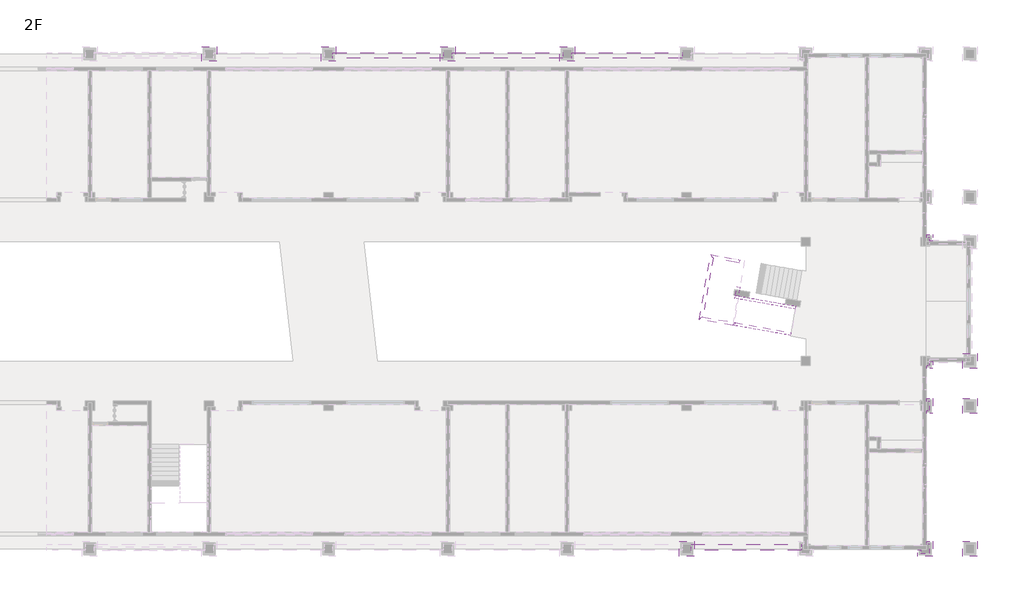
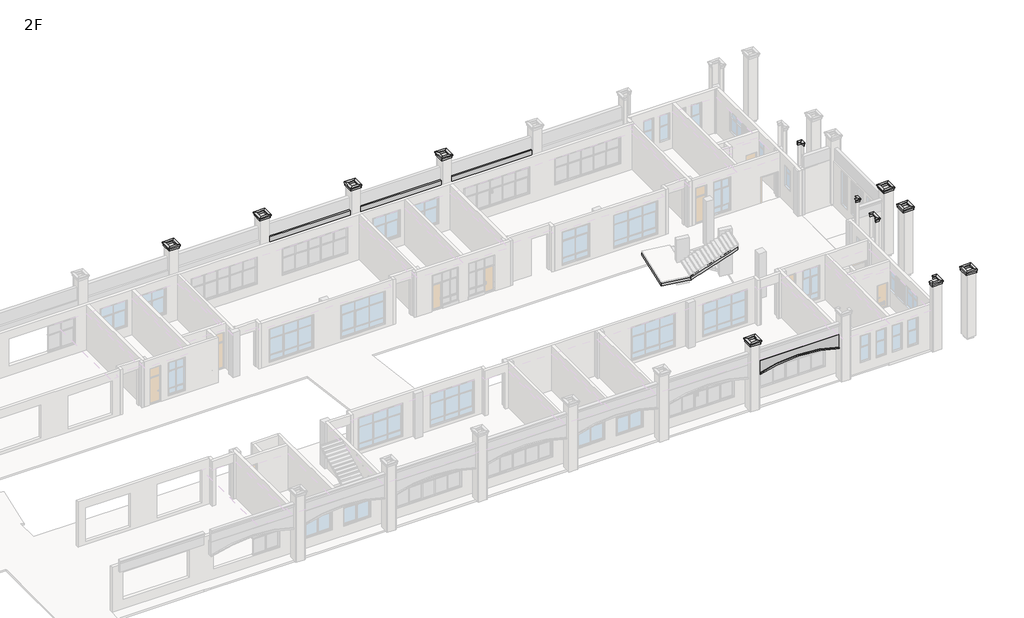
# One storey, part 15 of 16: 16 proxies, 6 members.
"""IFC4 building model written with IfcOpenShell, lengths in millimetres."""

from ifc_helpers import new_model, si_unit, frame, origin, place, context, project, spatial, polyline, outline, extrude, faceted_brep, transform, mapped, element, save
from components import generic_models_fbc45798, generic_models_00445dfb

model = new_model("IFC4")

# Units and contexts
model_context = context("Model", 3, world=origin())
ifc_project = project(units=[si_unit("LENGTHUNIT", "METRE", prefix="MILLI")], contexts=[model_context])

# Site, building, storey
site = spatial("IfcSite", under=ifc_project)
building = spatial("IfcBuilding", under=site)
storey = spatial("IfcBuildingStorey", under=building, Name="2F", Elevation=4200.0)

# Proxies
placement = place(None, origin())
generic_models_shape = generic_models_fbc45798(model_context)
element("IfcBuildingElementProxy", 1, Name="走廊板 : h=300mm", ObjectType="走廊板 : h=300mm", at=placement, inside=storey, context=model_context, shape_type="MappedRepresentation", body=[
    mapped(generic_models_shape, transform((67300.0, 150.0, 8400.0), x_axis=(1.0, 0.0, 0.0), y_axis=(0.0, 1.0, 0.0), z_axis=(0.0, 0.0, 1.0))),
])
generic_models_2_shape = generic_models_00445dfb(model_context)
element("IfcBuildingElementProxy", 2, Name="走廊板 : h=300mm", ObjectType="走廊板 : h=300mm", at=placement, inside=storey, context=model_context, shape_type="MappedRepresentation", body=[
    mapped(generic_models_2_shape, transform((43300.0, 33050.0, 8400.0), x_axis=(1.0, 0.0, 0.0), y_axis=(0.0, 1.0, 0.0), z_axis=(0.0, 0.0, 1.0))),
])
element("IfcBuildingElementProxy", 3, Name="走廊板 : h=300mm", ObjectType="走廊板 : h=300mm", at=placement, inside=storey, context=model_context, shape_type="MappedRepresentation", body=[
    mapped(generic_models_2_shape, transform((51300.0, 33050.0, 8400.0), x_axis=(1.0, 0.0, 0.0), y_axis=(0.0, 1.0, 0.0), z_axis=(0.0, 0.0, 1.0))),
])
element("IfcBuildingElementProxy", 4, Name="走廊板 : h=300mm", ObjectType="走廊板 : h=300mm", at=placement, inside=storey, context=model_context, shape_type="MappedRepresentation", body=[
    mapped(generic_models_2_shape, transform((59300.0, 33050.0, 8400.0), x_axis=(1.0, 0.0, 0.0), y_axis=(0.0, 1.0, 0.0), z_axis=(0.0, 0.0, 1.0))),
])
element("IfcBuildingElementProxy", 5, Name="QS2", ObjectType="QS2", at=placement, inside=storey, context=model_context, shape_type="Brep", body=[
    faceted_brep([(34550.0, 32749.640208, 10300.0), (34600.0, 32799.640208, 10300.0), (34600.0, 32799.640208, 10550.0), (34700.0, 32899.640208, 10550.0), (34700.0, 32899.640208, 10600.0), (34500.0, 32699.640208, 10600.0), (34500.0, 32699.640208, 10500.0), (34550.0, 32749.640208, 10500.0), (34550.0, 33650.0, 10300.0), (34550.0, 33650.0, 10500.0), (34500.0, 33700.0, 10500.0), (34500.0, 33700.0, 10600.0), (34700.0, 33500.0, 10600.0), (34700.0, 33500.0, 10550.0), (34600.0, 33600.0, 10550.0), (34600.0, 33600.0, 10300.0)], [[[0, 1, 2, 3, 4, 5, 6, 7]], [[8, 9, 10, 11, 12, 13, 14, 15]], [[1, 0, 8, 15]], [[2, 1, 15, 14]], [[3, 2, 14, 13]], [[4, 3, 13, 12]], [[5, 4, 12, 11]], [[6, 5, 11, 10]], [[7, 6, 10, 9]], [[0, 7, 9, 8]]]),
    faceted_brep([(34550.0, 33650.0, 10300.0), (34600.0, 33600.0, 10300.0), (34600.0, 33600.0, 10550.0), (34700.0, 33500.0, 10550.0), (34700.0, 33500.0, 10600.0), (34500.0, 33700.0, 10600.0), (34500.0, 33700.0, 10500.0), (34550.0, 33650.0, 10500.0), (35450.0, 33650.0, 10300.0), (35450.0, 33650.0, 10500.0), (35500.0, 33700.0, 10500.0), (35500.0, 33700.0, 10600.0), (35300.0, 33500.0, 10600.0), (35300.0, 33500.0, 10550.0), (35400.0, 33600.0, 10550.0), (35400.0, 33600.0, 10300.0)], [[[0, 1, 2, 3, 4, 5, 6, 7]], [[8, 9, 10, 11, 12, 13, 14, 15]], [[1, 0, 8, 15]], [[2, 1, 15, 14]], [[3, 2, 14, 13]], [[4, 3, 13, 12]], [[5, 4, 12, 11]], [[6, 5, 11, 10]], [[7, 6, 10, 9]], [[0, 7, 9, 8]]]),
    faceted_brep([(35450.0, 33650.0, 10300.0), (35400.0, 33600.0, 10300.0), (35400.0, 33600.0, 10550.0), (35300.0, 33500.0, 10550.0), (35300.0, 33500.0, 10600.0), (35500.0, 33700.0, 10600.0), (35500.0, 33700.0, 10500.0), (35450.0, 33650.0, 10500.0), (35450.0, 32749.640208, 10300.0), (35450.0, 32749.640208, 10500.0), (35500.0, 32699.640208, 10500.0), (35500.0, 32699.640208, 10600.0), (35300.0, 32899.640208, 10600.0), (35300.0, 32899.640208, 10550.0), (35400.0, 32799.640208, 10550.0), (35400.0, 32799.640208, 10300.0)], [[[0, 1, 2, 3, 4, 5, 6, 7]], [[8, 9, 10, 11, 12, 13, 14, 15]], [[1, 0, 8, 15]], [[2, 1, 15, 14]], [[3, 2, 14, 13]], [[4, 3, 13, 12]], [[5, 4, 12, 11]], [[6, 5, 11, 10]], [[7, 6, 10, 9]], [[0, 7, 9, 8]]]),
    faceted_brep([(35450.0, 32749.640208, 10300.0), (35400.0, 32799.640208, 10300.0), (35400.0, 32799.640208, 10550.0), (35300.0, 32899.640208, 10550.0), (35300.0, 32899.640208, 10600.0), (35500.0, 32699.640208, 10600.0), (35500.0, 32699.640208, 10500.0), (35450.0, 32749.640208, 10500.0), (34550.0, 32749.640208, 10300.0), (34550.0, 32749.640208, 10500.0), (34500.0, 32699.640208, 10500.0), (34500.0, 32699.640208, 10600.0), (34700.0, 32899.640208, 10600.0), (34700.0, 32899.640208, 10550.0), (34600.0, 32799.640208, 10550.0), (34600.0, 32799.640208, 10300.0)], [[[0, 1, 2, 3, 4, 5, 6, 7]], [[8, 9, 10, 11, 12, 13, 14, 15]], [[1, 0, 8, 15]], [[2, 1, 15, 14]], [[3, 2, 14, 13]], [[4, 3, 13, 12]], [[5, 4, 12, 11]], [[6, 5, 11, 10]], [[7, 6, 10, 9]], [[0, 7, 9, 8]]]),
])
element("IfcBuildingElementProxy", 6, Name="QS2", ObjectType="QS2", at=placement, inside=storey, context=model_context, shape_type="Brep", body=[
    faceted_brep([(42550.0, 32749.640208, 10300.0), (42600.0, 32799.640208, 10300.0), (42600.0, 32799.640208, 10550.0), (42700.0, 32899.640208, 10550.0), (42700.0, 32899.640208, 10600.0), (42500.0, 32699.640208, 10600.0), (42500.0, 32699.640208, 10500.0), (42550.0, 32749.640208, 10500.0), (42550.0, 33650.0, 10300.0), (42550.0, 33650.0, 10500.0), (42500.0, 33700.0, 10500.0), (42500.0, 33700.0, 10600.0), (42700.0, 33500.0, 10600.0), (42700.0, 33500.0, 10550.0), (42600.0, 33600.0, 10550.0), (42600.0, 33600.0, 10300.0)], [[[0, 1, 2, 3, 4, 5, 6, 7]], [[8, 9, 10, 11, 12, 13, 14, 15]], [[1, 0, 8, 15]], [[2, 1, 15, 14]], [[3, 2, 14, 13]], [[4, 3, 13, 12]], [[5, 4, 12, 11]], [[6, 5, 11, 10]], [[7, 6, 10, 9]], [[0, 7, 9, 8]]]),
    faceted_brep([(42550.0, 33650.0, 10300.0), (42600.0, 33600.0, 10300.0), (42600.0, 33600.0, 10550.0), (42700.0, 33500.0, 10550.0), (42700.0, 33500.0, 10600.0), (42500.0, 33700.0, 10600.0), (42500.0, 33700.0, 10500.0), (42550.0, 33650.0, 10500.0), (43450.0, 33650.0, 10300.0), (43450.0, 33650.0, 10500.0), (43500.0, 33700.0, 10500.0), (43500.0, 33700.0, 10600.0), (43300.0, 33500.0, 10600.0), (43300.0, 33500.0, 10550.0), (43400.0, 33600.0, 10550.0), (43400.0, 33600.0, 10300.0)], [[[0, 1, 2, 3, 4, 5, 6, 7]], [[8, 9, 10, 11, 12, 13, 14, 15]], [[1, 0, 8, 15]], [[2, 1, 15, 14]], [[3, 2, 14, 13]], [[4, 3, 13, 12]], [[5, 4, 12, 11]], [[6, 5, 11, 10]], [[7, 6, 10, 9]], [[0, 7, 9, 8]]]),
    faceted_brep([(43450.0, 33650.0, 10300.0), (43400.0, 33600.0, 10300.0), (43400.0, 33600.0, 10550.0), (43300.0, 33500.0, 10550.0), (43300.0, 33500.0, 10600.0), (43500.0, 33700.0, 10600.0), (43500.0, 33700.0, 10500.0), (43450.0, 33650.0, 10500.0), (43450.0, 32749.640208, 10300.0), (43450.0, 32749.640208, 10500.0), (43500.0, 32699.640208, 10500.0), (43500.0, 32699.640208, 10600.0), (43300.0, 32899.640208, 10600.0), (43300.0, 32899.640208, 10550.0), (43400.0, 32799.640208, 10550.0), (43400.0, 32799.640208, 10300.0)], [[[0, 1, 2, 3, 4, 5, 6, 7]], [[8, 9, 10, 11, 12, 13, 14, 15]], [[1, 0, 8, 15]], [[2, 1, 15, 14]], [[3, 2, 14, 13]], [[4, 3, 13, 12]], [[5, 4, 12, 11]], [[6, 5, 11, 10]], [[7, 6, 10, 9]], [[0, 7, 9, 8]]]),
    faceted_brep([(43450.0, 32749.640208, 10300.0), (43400.0, 32799.640208, 10300.0), (43400.0, 32799.640208, 10550.0), (43300.0, 32899.640208, 10550.0), (43300.0, 32899.640208, 10600.0), (43500.0, 32699.640208, 10600.0), (43500.0, 32699.640208, 10500.0), (43450.0, 32749.640208, 10500.0), (42550.0, 32749.640208, 10300.0), (42550.0, 32749.640208, 10500.0), (42500.0, 32699.640208, 10500.0), (42500.0, 32699.640208, 10600.0), (42700.0, 32899.640208, 10600.0), (42700.0, 32899.640208, 10550.0), (42600.0, 32799.640208, 10550.0), (42600.0, 32799.640208, 10300.0)], [[[0, 1, 2, 3, 4, 5, 6, 7]], [[8, 9, 10, 11, 12, 13, 14, 15]], [[1, 0, 8, 15]], [[2, 1, 15, 14]], [[3, 2, 14, 13]], [[4, 3, 13, 12]], [[5, 4, 12, 11]], [[6, 5, 11, 10]], [[7, 6, 10, 9]], [[0, 7, 9, 8]]]),
])
element("IfcBuildingElementProxy", 7, Name="QS2", ObjectType="QS2", at=placement, inside=storey, context=model_context, shape_type="Brep", body=[
    faceted_brep([(50550.0, 32749.640208, 10300.0), (50600.0, 32799.640208, 10300.0), (50600.0, 32799.640208, 10550.0), (50700.0, 32899.640208, 10550.0), (50700.0, 32899.640208, 10600.0), (50500.0, 32699.640208, 10600.0), (50500.0, 32699.640208, 10500.0), (50550.0, 32749.640208, 10500.0), (50550.0, 33650.0, 10300.0), (50550.0, 33650.0, 10500.0), (50500.0, 33700.0, 10500.0), (50500.0, 33700.0, 10600.0), (50700.0, 33500.0, 10600.0), (50700.0, 33500.0, 10550.0), (50600.0, 33600.0, 10550.0), (50600.0, 33600.0, 10300.0)], [[[0, 1, 2, 3, 4, 5, 6, 7]], [[8, 9, 10, 11, 12, 13, 14, 15]], [[1, 0, 8, 15]], [[2, 1, 15, 14]], [[3, 2, 14, 13]], [[4, 3, 13, 12]], [[5, 4, 12, 11]], [[6, 5, 11, 10]], [[7, 6, 10, 9]], [[0, 7, 9, 8]]]),
    faceted_brep([(50550.0, 33650.0, 10300.0), (50600.0, 33600.0, 10300.0), (50600.0, 33600.0, 10550.0), (50700.0, 33500.0, 10550.0), (50700.0, 33500.0, 10600.0), (50500.0, 33700.0, 10600.0), (50500.0, 33700.0, 10500.0), (50550.0, 33650.0, 10500.0), (51450.0, 33650.0, 10300.0), (51450.0, 33650.0, 10500.0), (51500.0, 33700.0, 10500.0), (51500.0, 33700.0, 10600.0), (51300.0, 33500.0, 10600.0), (51300.0, 33500.0, 10550.0), (51400.0, 33600.0, 10550.0), (51400.0, 33600.0, 10300.0)], [[[0, 1, 2, 3, 4, 5, 6, 7]], [[8, 9, 10, 11, 12, 13, 14, 15]], [[1, 0, 8, 15]], [[2, 1, 15, 14]], [[3, 2, 14, 13]], [[4, 3, 13, 12]], [[5, 4, 12, 11]], [[6, 5, 11, 10]], [[7, 6, 10, 9]], [[0, 7, 9, 8]]]),
    faceted_brep([(51450.0, 33650.0, 10300.0), (51400.0, 33600.0, 10300.0), (51400.0, 33600.0, 10550.0), (51300.0, 33500.0, 10550.0), (51300.0, 33500.0, 10600.0), (51500.0, 33700.0, 10600.0), (51500.0, 33700.0, 10500.0), (51450.0, 33650.0, 10500.0), (51450.0, 32749.640208, 10300.0), (51450.0, 32749.640208, 10500.0), (51500.0, 32699.640208, 10500.0), (51500.0, 32699.640208, 10600.0), (51300.0, 32899.640208, 10600.0), (51300.0, 32899.640208, 10550.0), (51400.0, 32799.640208, 10550.0), (51400.0, 32799.640208, 10300.0)], [[[0, 1, 2, 3, 4, 5, 6, 7]], [[8, 9, 10, 11, 12, 13, 14, 15]], [[1, 0, 8, 15]], [[2, 1, 15, 14]], [[3, 2, 14, 13]], [[4, 3, 13, 12]], [[5, 4, 12, 11]], [[6, 5, 11, 10]], [[7, 6, 10, 9]], [[0, 7, 9, 8]]]),
    faceted_brep([(51450.0, 32749.640208, 10300.0), (51400.0, 32799.640208, 10300.0), (51400.0, 32799.640208, 10550.0), (51300.0, 32899.640208, 10550.0), (51300.0, 32899.640208, 10600.0), (51500.0, 32699.640208, 10600.0), (51500.0, 32699.640208, 10500.0), (51450.0, 32749.640208, 10500.0), (50550.0, 32749.640208, 10300.0), (50550.0, 32749.640208, 10500.0), (50500.0, 32699.640208, 10500.0), (50500.0, 32699.640208, 10600.0), (50700.0, 32899.640208, 10600.0), (50700.0, 32899.640208, 10550.0), (50600.0, 32799.640208, 10550.0), (50600.0, 32799.640208, 10300.0)], [[[0, 1, 2, 3, 4, 5, 6, 7]], [[8, 9, 10, 11, 12, 13, 14, 15]], [[1, 0, 8, 15]], [[2, 1, 15, 14]], [[3, 2, 14, 13]], [[4, 3, 13, 12]], [[5, 4, 12, 11]], [[6, 5, 11, 10]], [[7, 6, 10, 9]], [[0, 7, 9, 8]]]),
])
element("IfcBuildingElementProxy", 8, Name="QS2", ObjectType="QS2", at=placement, inside=storey, context=model_context, shape_type="Brep", body=[
    faceted_brep([(58550.0, 32749.640208, 10300.0), (58600.0, 32799.640208, 10300.0), (58600.0, 32799.640208, 10550.0), (58700.0, 32899.640208, 10550.0), (58700.0, 32899.640208, 10600.0), (58500.0, 32699.640208, 10600.0), (58500.0, 32699.640208, 10500.0), (58550.0, 32749.640208, 10500.0), (58550.0, 33650.0, 10300.0), (58550.0, 33650.0, 10500.0), (58500.0, 33700.0, 10500.0), (58500.0, 33700.0, 10600.0), (58700.0, 33500.0, 10600.0), (58700.0, 33500.0, 10550.0), (58600.0, 33600.0, 10550.0), (58600.0, 33600.0, 10300.0)], [[[0, 1, 2, 3, 4, 5, 6, 7]], [[8, 9, 10, 11, 12, 13, 14, 15]], [[1, 0, 8, 15]], [[2, 1, 15, 14]], [[3, 2, 14, 13]], [[4, 3, 13, 12]], [[5, 4, 12, 11]], [[6, 5, 11, 10]], [[7, 6, 10, 9]], [[0, 7, 9, 8]]]),
    faceted_brep([(58550.0, 33650.0, 10300.0), (58600.0, 33600.0, 10300.0), (58600.0, 33600.0, 10550.0), (58700.0, 33500.0, 10550.0), (58700.0, 33500.0, 10600.0), (58500.0, 33700.0, 10600.0), (58500.0, 33700.0, 10500.0), (58550.0, 33650.0, 10500.0), (59450.0, 33650.0, 10300.0), (59450.0, 33650.0, 10500.0), (59500.0, 33700.0, 10500.0), (59500.0, 33700.0, 10600.0), (59300.0, 33500.0, 10600.0), (59300.0, 33500.0, 10550.0), (59400.0, 33600.0, 10550.0), (59400.0, 33600.0, 10300.0)], [[[0, 1, 2, 3, 4, 5, 6, 7]], [[8, 9, 10, 11, 12, 13, 14, 15]], [[1, 0, 8, 15]], [[2, 1, 15, 14]], [[3, 2, 14, 13]], [[4, 3, 13, 12]], [[5, 4, 12, 11]], [[6, 5, 11, 10]], [[7, 6, 10, 9]], [[0, 7, 9, 8]]]),
    faceted_brep([(59450.0, 33650.0, 10300.0), (59400.0, 33600.0, 10300.0), (59400.0, 33600.0, 10550.0), (59300.0, 33500.0, 10550.0), (59300.0, 33500.0, 10600.0), (59500.0, 33700.0, 10600.0), (59500.0, 33700.0, 10500.0), (59450.0, 33650.0, 10500.0), (59450.0, 32749.640208, 10300.0), (59450.0, 32749.640208, 10500.0), (59500.0, 32699.640208, 10500.0), (59500.0, 32699.640208, 10600.0), (59300.0, 32899.640208, 10600.0), (59300.0, 32899.640208, 10550.0), (59400.0, 32799.640208, 10550.0), (59400.0, 32799.640208, 10300.0)], [[[0, 1, 2, 3, 4, 5, 6, 7]], [[8, 9, 10, 11, 12, 13, 14, 15]], [[1, 0, 8, 15]], [[2, 1, 15, 14]], [[3, 2, 14, 13]], [[4, 3, 13, 12]], [[5, 4, 12, 11]], [[6, 5, 11, 10]], [[7, 6, 10, 9]], [[0, 7, 9, 8]]]),
    faceted_brep([(59450.0, 32749.640208, 10300.0), (59400.0, 32799.640208, 10300.0), (59400.0, 32799.640208, 10550.0), (59300.0, 32899.640208, 10550.0), (59300.0, 32899.640208, 10600.0), (59500.0, 32699.640208, 10600.0), (59500.0, 32699.640208, 10500.0), (59450.0, 32749.640208, 10500.0), (58550.0, 32749.640208, 10300.0), (58550.0, 32749.640208, 10500.0), (58500.0, 32699.640208, 10500.0), (58500.0, 32699.640208, 10600.0), (58700.0, 32899.640208, 10600.0), (58700.0, 32899.640208, 10550.0), (58600.0, 32799.640208, 10550.0), (58600.0, 32799.640208, 10300.0)], [[[0, 1, 2, 3, 4, 5, 6, 7]], [[8, 9, 10, 11, 12, 13, 14, 15]], [[1, 0, 8, 15]], [[2, 1, 15, 14]], [[3, 2, 14, 13]], [[4, 3, 13, 12]], [[5, 4, 12, 11]], [[6, 5, 11, 10]], [[7, 6, 10, 9]], [[0, 7, 9, 8]]]),
])
element("IfcBuildingElementProxy", 9, Name="QS2", ObjectType="QS2", at=placement, inside=storey, context=model_context, shape_type="Brep", body=[
    faceted_brep([(83102.9999998, 21050.0, 10300.0), (83102.9999998, 21000.0, 10300.0), (83102.9999998, 21000.0, 10550.0), (83102.9999998, 20900.0, 10550.0), (83102.9999998, 20900.0, 10600.0), (83102.9999998, 21100.0, 10600.0), (83102.9999998, 21100.0, 10500.0), (83102.9999998, 21050.0, 10500.0), (83450.0, 21050.0, 10300.0), (83450.0, 21050.0, 10500.0), (83500.0, 21100.0, 10500.0), (83500.0, 21100.0, 10600.0), (83300.0, 20900.0, 10600.0), (83300.0, 20900.0, 10550.0), (83400.0, 21000.0, 10550.0), (83400.0, 21000.0, 10300.0)], [[[0, 1, 2, 3, 4, 5, 6, 7]], [[8, 9, 10, 11, 12, 13, 14, 15]], [[0, 7, 9, 8]], [[7, 6, 10, 9]], [[6, 5, 11, 10]], [[5, 4, 12, 11]], [[4, 3, 13, 12]], [[3, 2, 14, 13]], [[2, 1, 15, 14]], [[1, 0, 8, 15]]]),
    faceted_brep([(83450.0, 21050.0, 10300.0), (83400.0, 21000.0, 10300.0), (83400.0, 21000.0, 10550.0), (83300.0, 20900.0, 10550.0), (83300.0, 20900.0, 10600.0), (83500.0, 21100.0, 10600.0), (83500.0, 21100.0, 10500.0), (83450.0, 21050.0, 10500.0), (83450.0, 20633.3045364, 10300.0), (83450.0, 20633.3045364, 10500.0), (83500.0, 20633.3045364, 10500.0), (83500.0, 20633.3045364, 10600.0), (83300.0, 20633.3045364, 10600.0), (83300.0, 20633.3045364, 10550.0), (83400.0, 20633.3045364, 10550.0), (83400.0, 20633.3045364, 10300.0)], [[[0, 1, 2, 3, 4, 5, 6, 7]], [[8, 9, 10, 11, 12, 13, 14, 15]], [[0, 7, 9, 8]], [[7, 6, 10, 9]], [[6, 5, 11, 10]], [[5, 4, 12, 11]], [[4, 3, 13, 12]], [[3, 2, 14, 13]], [[2, 1, 15, 14]], [[1, 0, 8, 15]]]),
])
element("IfcBuildingElementProxy", 10, Name="QS2", ObjectType="QS2", at=placement, inside=storey, context=model_context, shape_type="Brep", body=[
    faceted_brep([(86450.0, 450.0, 10300.0), (86400.0, 400.0, 10300.0), (86400.0, 400.0, 10550.0), (86300.0, 300.0, 10550.0), (86300.0, 300.0, 10600.0), (86500.0, 500.0, 10600.0), (86500.0, 500.0, 10500.0), (86450.0, 450.0, 10500.0), (86450.0, -450.0, 10300.0), (86450.0, -450.0, 10500.0), (86500.0, -500.0, 10500.0), (86500.0, -500.0, 10600.0), (86300.0, -300.0, 10600.0), (86300.0, -300.0, 10550.0), (86400.0, -400.0, 10550.0), (86400.0, -400.0, 10300.0)], [[[0, 1, 2, 3, 4, 5, 6, 7]], [[8, 9, 10, 11, 12, 13, 14, 15]], [[1, 0, 8, 15]], [[2, 1, 15, 14]], [[3, 2, 14, 13]], [[4, 3, 13, 12]], [[5, 4, 12, 11]], [[6, 5, 11, 10]], [[7, 6, 10, 9]], [[0, 7, 9, 8]]]),
    faceted_brep([(86450.0, -450.0, 10300.0), (86400.0, -400.0, 10300.0), (86400.0, -400.0, 10550.0), (86300.0, -300.0, 10550.0), (86300.0, -300.0, 10600.0), (86500.0, -500.0, 10600.0), (86500.0, -500.0, 10500.0), (86450.0, -450.0, 10500.0), (85550.0, -450.0, 10300.0), (85550.0, -450.0, 10500.0), (85500.0, -500.0, 10500.0), (85500.0, -500.0, 10600.0), (85700.0, -300.0, 10600.0), (85700.0, -300.0, 10550.0), (85600.0, -400.0, 10550.0), (85600.0, -400.0, 10300.0)], [[[0, 1, 2, 3, 4, 5, 6, 7]], [[8, 9, 10, 11, 12, 13, 14, 15]], [[1, 0, 8, 15]], [[2, 1, 15, 14]], [[3, 2, 14, 13]], [[4, 3, 13, 12]], [[5, 4, 12, 11]], [[6, 5, 11, 10]], [[7, 6, 10, 9]], [[0, 7, 9, 8]]]),
    faceted_brep([(85550.0, -450.0, 10300.0), (85600.0, -400.0, 10300.0), (85600.0, -400.0, 10550.0), (85700.0, -300.0, 10550.0), (85700.0, -300.0, 10600.0), (85500.0, -500.0, 10600.0), (85500.0, -500.0, 10500.0), (85550.0, -450.0, 10500.0), (85550.0, 450.0, 10300.0), (85550.0, 450.0, 10500.0), (85500.0, 500.0, 10500.0), (85500.0, 500.0, 10600.0), (85700.0, 300.0, 10600.0), (85700.0, 300.0, 10550.0), (85600.0, 400.0, 10550.0), (85600.0, 400.0, 10300.0)], [[[0, 1, 2, 3, 4, 5, 6, 7]], [[8, 9, 10, 11, 12, 13, 14, 15]], [[1, 0, 8, 15]], [[2, 1, 15, 14]], [[3, 2, 14, 13]], [[4, 3, 13, 12]], [[5, 4, 12, 11]], [[6, 5, 11, 10]], [[7, 6, 10, 9]], [[0, 7, 9, 8]]]),
    faceted_brep([(85550.0, 450.0, 10300.0), (85600.0, 400.0, 10300.0), (85600.0, 400.0, 10550.0), (85700.0, 300.0, 10550.0), (85700.0, 300.0, 10600.0), (85500.0, 500.0, 10600.0), (85500.0, 500.0, 10500.0), (85550.0, 450.0, 10500.0), (86450.0, 450.0, 10300.0), (86450.0, 450.0, 10500.0), (86500.0, 500.0, 10500.0), (86500.0, 500.0, 10600.0), (86300.0, 300.0, 10600.0), (86300.0, 300.0, 10550.0), (86400.0, 400.0, 10550.0), (86400.0, 400.0, 10300.0)], [[[0, 1, 2, 3, 4, 5, 6, 7]], [[8, 9, 10, 11, 12, 13, 14, 15]], [[1, 0, 8, 15]], [[2, 1, 15, 14]], [[3, 2, 14, 13]], [[4, 3, 13, 12]], [[5, 4, 12, 11]], [[6, 5, 11, 10]], [[7, 6, 10, 9]], [[0, 7, 9, 8]]]),
])
element("IfcBuildingElementProxy", 11, Name="QS2", ObjectType="QS2", at=placement, inside=storey, context=model_context, shape_type="Brep", body=[
    faceted_brep([(86450.0, 10050.0, 10300.0), (86400.0, 10000.0, 10300.0), (86400.0, 10000.0, 10550.0), (86300.0, 9900.0, 10550.0), (86300.0, 9900.0, 10600.0), (86500.0, 10100.0, 10600.0), (86500.0, 10100.0, 10500.0), (86450.0, 10050.0, 10500.0), (86450.0, 9150.0, 10300.0), (86450.0, 9150.0, 10500.0), (86500.0, 9100.0, 10500.0), (86500.0, 9100.0, 10600.0), (86300.0, 9300.0, 10600.0), (86300.0, 9300.0, 10550.0), (86400.0, 9200.0, 10550.0), (86400.0, 9200.0, 10300.0)], [[[0, 1, 2, 3, 4, 5, 6, 7]], [[8, 9, 10, 11, 12, 13, 14, 15]], [[1, 0, 8, 15]], [[2, 1, 15, 14]], [[3, 2, 14, 13]], [[4, 3, 13, 12]], [[5, 4, 12, 11]], [[6, 5, 11, 10]], [[7, 6, 10, 9]], [[0, 7, 9, 8]]]),
    faceted_brep([(86450.0, 9150.0, 10300.0), (86400.0, 9200.0, 10300.0), (86400.0, 9200.0, 10550.0), (86300.0, 9300.0, 10550.0), (86300.0, 9300.0, 10600.0), (86500.0, 9100.0, 10600.0), (86500.0, 9100.0, 10500.0), (86450.0, 9150.0, 10500.0), (85550.0, 9150.0, 10300.0), (85550.0, 9150.0, 10500.0), (85500.0, 9100.0, 10500.0), (85500.0, 9100.0, 10600.0), (85700.0, 9300.0, 10600.0), (85700.0, 9300.0, 10550.0), (85600.0, 9200.0, 10550.0), (85600.0, 9200.0, 10300.0)], [[[0, 1, 2, 3, 4, 5, 6, 7]], [[8, 9, 10, 11, 12, 13, 14, 15]], [[1, 0, 8, 15]], [[2, 1, 15, 14]], [[3, 2, 14, 13]], [[4, 3, 13, 12]], [[5, 4, 12, 11]], [[6, 5, 11, 10]], [[7, 6, 10, 9]], [[0, 7, 9, 8]]]),
    faceted_brep([(85550.0, 9150.0, 10300.0), (85600.0, 9200.0, 10300.0), (85600.0, 9200.0, 10550.0), (85700.0, 9300.0, 10550.0), (85700.0, 9300.0, 10600.0), (85500.0, 9100.0, 10600.0), (85500.0, 9100.0, 10500.0), (85550.0, 9150.0, 10500.0), (85550.0, 10050.0, 10300.0), (85550.0, 10050.0, 10500.0), (85500.0, 10100.0, 10500.0), (85500.0, 10100.0, 10600.0), (85700.0, 9900.0, 10600.0), (85700.0, 9900.0, 10550.0), (85600.0, 10000.0, 10550.0), (85600.0, 10000.0, 10300.0)], [[[0, 1, 2, 3, 4, 5, 6, 7]], [[8, 9, 10, 11, 12, 13, 14, 15]], [[1, 0, 8, 15]], [[2, 1, 15, 14]], [[3, 2, 14, 13]], [[4, 3, 13, 12]], [[5, 4, 12, 11]], [[6, 5, 11, 10]], [[7, 6, 10, 9]], [[0, 7, 9, 8]]]),
    faceted_brep([(85550.0, 10050.0, 10300.0), (85600.0, 10000.0, 10300.0), (85600.0, 10000.0, 10550.0), (85700.0, 9900.0, 10550.0), (85700.0, 9900.0, 10600.0), (85500.0, 10100.0, 10600.0), (85500.0, 10100.0, 10500.0), (85550.0, 10050.0, 10500.0), (86450.0, 10050.0, 10300.0), (86450.0, 10050.0, 10500.0), (86500.0, 10100.0, 10500.0), (86500.0, 10100.0, 10600.0), (86300.0, 9900.0, 10600.0), (86300.0, 9900.0, 10550.0), (86400.0, 10000.0, 10550.0), (86400.0, 10000.0, 10300.0)], [[[0, 1, 2, 3, 4, 5, 6, 7]], [[8, 9, 10, 11, 12, 13, 14, 15]], [[1, 0, 8, 15]], [[2, 1, 15, 14]], [[3, 2, 14, 13]], [[4, 3, 13, 12]], [[5, 4, 12, 11]], [[6, 5, 11, 10]], [[7, 6, 10, 9]], [[0, 7, 9, 8]]]),
])
element("IfcBuildingElementProxy", 12, Name="QS2", ObjectType="QS2", at=placement, inside=storey, context=model_context, shape_type="Brep", body=[
    faceted_brep([(86450.0, 13050.0, 10300.0), (86400.0, 13000.0, 10300.0), (86400.0, 13000.0, 10550.0), (86300.0, 12900.0, 10550.0), (86300.0, 12900.0, 10600.0), (86500.0, 13100.0, 10600.0), (86500.0, 13100.0, 10500.0), (86450.0, 13050.0, 10500.0), (86450.0, 12150.0, 10300.0), (86450.0, 12150.0, 10500.0), (86500.0, 12100.0, 10500.0), (86500.0, 12100.0, 10600.0), (86300.0, 12300.0, 10600.0), (86300.0, 12300.0, 10550.0), (86400.0, 12200.0, 10550.0), (86400.0, 12200.0, 10300.0)], [[[0, 1, 2, 3, 4, 5, 6, 7]], [[8, 9, 10, 11, 12, 13, 14, 15]], [[1, 0, 8, 15]], [[2, 1, 15, 14]], [[3, 2, 14, 13]], [[4, 3, 13, 12]], [[5, 4, 12, 11]], [[6, 5, 11, 10]], [[7, 6, 10, 9]], [[0, 7, 9, 8]]]),
    faceted_brep([(86450.0, 12150.0, 10300.0), (86400.0, 12200.0, 10300.0), (86400.0, 12200.0, 10550.0), (86300.0, 12300.0, 10550.0), (86300.0, 12300.0, 10600.0), (86500.0, 12100.0, 10600.0), (86500.0, 12100.0, 10500.0), (86450.0, 12150.0, 10500.0), (85550.0, 12150.0, 10300.0), (85550.0, 12150.0, 10500.0), (85500.0, 12100.0, 10500.0), (85500.0, 12100.0, 10600.0), (85700.0, 12300.0, 10600.0), (85700.0, 12300.0, 10550.0), (85600.0, 12200.0, 10550.0), (85600.0, 12200.0, 10300.0)], [[[0, 1, 2, 3, 4, 5, 6, 7]], [[8, 9, 10, 11, 12, 13, 14, 15]], [[1, 0, 8, 15]], [[2, 1, 15, 14]], [[3, 2, 14, 13]], [[4, 3, 13, 12]], [[5, 4, 12, 11]], [[6, 5, 11, 10]], [[7, 6, 10, 9]], [[0, 7, 9, 8]]]),
    faceted_brep([(85550.0, 12150.0, 10300.0), (85600.0, 12200.0, 10300.0), (85600.0, 12200.0, 10550.0), (85700.0, 12300.0, 10550.0), (85700.0, 12300.0, 10600.0), (85500.0, 12100.0, 10600.0), (85500.0, 12100.0, 10500.0), (85550.0, 12150.0, 10500.0), (85550.0, 13050.0, 10300.0), (85550.0, 13050.0, 10500.0), (85500.0, 13100.0, 10500.0), (85500.0, 13100.0, 10600.0), (85700.0, 12900.0, 10600.0), (85700.0, 12900.0, 10550.0), (85600.0, 13000.0, 10550.0), (85600.0, 13000.0, 10300.0)], [[[0, 1, 2, 3, 4, 5, 6, 7]], [[8, 9, 10, 11, 12, 13, 14, 15]], [[1, 0, 8, 15]], [[2, 1, 15, 14]], [[3, 2, 14, 13]], [[4, 3, 13, 12]], [[5, 4, 12, 11]], [[6, 5, 11, 10]], [[7, 6, 10, 9]], [[0, 7, 9, 8]]]),
    faceted_brep([(85550.0, 13050.0, 10300.0), (85600.0, 13000.0, 10300.0), (85600.0, 13000.0, 10550.0), (85700.0, 12900.0, 10550.0), (85700.0, 12900.0, 10600.0), (85500.0, 13100.0, 10600.0), (85500.0, 13100.0, 10500.0), (85550.0, 13050.0, 10500.0), (86450.0, 13050.0, 10300.0), (86450.0, 13050.0, 10500.0), (86500.0, 13100.0, 10500.0), (86500.0, 13100.0, 10600.0), (86300.0, 12900.0, 10600.0), (86300.0, 12900.0, 10550.0), (86400.0, 13000.0, 10550.0), (86400.0, 13000.0, 10300.0)], [[[0, 1, 2, 3, 4, 5, 6, 7]], [[8, 9, 10, 11, 12, 13, 14, 15]], [[1, 0, 8, 15]], [[2, 1, 15, 14]], [[3, 2, 14, 13]], [[4, 3, 13, 12]], [[5, 4, 12, 11]], [[6, 5, 11, 10]], [[7, 6, 10, 9]], [[0, 7, 9, 8]]]),
])
element("IfcBuildingElementProxy", 13, Name="QS2", ObjectType="QS2", at=placement, inside=storey, context=model_context, shape_type="Brep", body=[
    faceted_brep([(82550.0, -52.6954639, 10300.0), (82550.0, -52.6954639, 10500.0), (82500.0, -52.6954639, 10500.0), (82500.0, -52.6954639, 10600.0), (82700.0, -52.6954639, 10600.0), (82700.0, -52.6954639, 10550.0), (82600.0, -52.6954639, 10550.0), (82600.0, -52.6954639, 10300.0), (82550.0, -450.0, 10300.0), (82600.0, -400.0, 10300.0), (82600.0, -400.0, 10550.0), (82700.0, -300.0, 10550.0), (82700.0, -300.0, 10600.0), (82500.0, -500.0, 10600.0), (82500.0, -500.0, 10500.0), (82550.0, -450.0, 10500.0)], [[[0, 1, 2, 3, 4, 5, 6, 7]], [[8, 9, 10, 11, 12, 13, 14, 15]], [[1, 0, 8, 15]], [[2, 1, 15, 14]], [[3, 2, 14, 13]], [[4, 3, 13, 12]], [[5, 4, 12, 11]], [[6, 5, 11, 10]], [[7, 6, 10, 9]], [[0, 7, 9, 8]]]),
    faceted_brep([(82550.0, -450.0, 10300.0), (82550.0, -450.0, 10500.0), (82500.0, -500.0, 10500.0), (82500.0, -500.0, 10600.0), (82700.0, -300.0, 10600.0), (82700.0, -300.0, 10550.0), (82600.0, -400.0, 10550.0), (82600.0, -400.0, 10300.0), (83450.0, -450.0, 10300.0), (83400.0, -400.0, 10300.0), (83400.0, -400.0, 10550.0), (83300.0, -300.0, 10550.0), (83300.0, -300.0, 10600.0), (83500.0, -500.0, 10600.0), (83500.0, -500.0, 10500.0), (83450.0, -450.0, 10500.0)], [[[0, 1, 2, 3, 4, 5, 6, 7]], [[8, 9, 10, 11, 12, 13, 14, 15]], [[1, 0, 8, 15]], [[2, 1, 15, 14]], [[3, 2, 14, 13]], [[4, 3, 13, 12]], [[5, 4, 12, 11]], [[6, 5, 11, 10]], [[7, 6, 10, 9]], [[0, 7, 9, 8]]]),
    faceted_brep([(83450.0, -450.0, 10300.0), (83450.0, -450.0, 10500.0), (83500.0, -500.0, 10500.0), (83500.0, -500.0, 10600.0), (83300.0, -300.0, 10600.0), (83300.0, -300.0, 10550.0), (83400.0, -400.0, 10550.0), (83400.0, -400.0, 10300.0), (83450.0, 450.0, 10300.0), (83400.0, 400.0, 10300.0), (83400.0, 400.0, 10550.0), (83300.0, 300.0, 10550.0), (83300.0, 300.0, 10600.0), (83500.0, 500.0, 10600.0), (83500.0, 500.0, 10500.0), (83450.0, 450.0, 10500.0)], [[[0, 1, 2, 3, 4, 5, 6, 7]], [[8, 9, 10, 11, 12, 13, 14, 15]], [[1, 0, 8, 15]], [[2, 1, 15, 14]], [[3, 2, 14, 13]], [[4, 3, 13, 12]], [[5, 4, 12, 11]], [[6, 5, 11, 10]], [[7, 6, 10, 9]], [[0, 7, 9, 8]]]),
    faceted_brep([(83450.0, 450.0, 10300.0), (83450.0, 450.0, 10500.0), (83500.0, 500.0, 10500.0), (83500.0, 500.0, 10600.0), (83300.0, 300.0, 10600.0), (83300.0, 300.0, 10550.0), (83400.0, 400.0, 10550.0), (83400.0, 400.0, 10300.0), (83102.9999998, 450.0, 10300.0), (83102.9999998, 400.0, 10300.0), (83102.9999998, 400.0, 10550.0), (83102.9999998, 300.0, 10550.0), (83102.9999998, 300.0, 10600.0), (83102.9999998, 500.0, 10600.0), (83102.9999998, 500.0, 10500.0), (83102.9999998, 450.0, 10500.0)], [[[0, 1, 2, 3, 4, 5, 6, 7]], [[8, 9, 10, 11, 12, 13, 14, 15]], [[1, 0, 8, 15]], [[2, 1, 15, 14]], [[3, 2, 14, 13]], [[4, 3, 13, 12]], [[5, 4, 12, 11]], [[6, 5, 11, 10]], [[7, 6, 10, 9]], [[0, 7, 9, 8]]]),
])
element("IfcBuildingElementProxy", 14, Name="QS2", ObjectType="QS2", at=placement, inside=storey, context=model_context, shape_type="Brep", body=[
    faceted_brep([(83102.9999998, 9150.0, 10300.0), (83102.9999998, 9150.0, 10500.0), (83102.9999998, 9100.0, 10500.0), (83102.9999998, 9100.0, 10600.0), (83102.9999998, 9300.0, 10600.0), (83102.9999998, 9300.0, 10550.0), (83102.9999998, 9200.0, 10550.0), (83102.9999998, 9200.0, 10300.0), (83450.0, 9150.0, 10300.0), (83400.0, 9200.0, 10300.0), (83400.0, 9200.0, 10550.0), (83300.0, 9300.0, 10550.0), (83300.0, 9300.0, 10600.0), (83500.0, 9100.0, 10600.0), (83500.0, 9100.0, 10500.0), (83450.0, 9150.0, 10500.0)], [[[0, 1, 2, 3, 4, 5, 6, 7]], [[8, 9, 10, 11, 12, 13, 14, 15]], [[1, 0, 8, 15]], [[2, 1, 15, 14]], [[3, 2, 14, 13]], [[4, 3, 13, 12]], [[5, 4, 12, 11]], [[6, 5, 11, 10]], [[7, 6, 10, 9]], [[0, 7, 9, 8]]]),
    faceted_brep([(83450.0, 9150.0, 10300.0), (83450.0, 9150.0, 10500.0), (83500.0, 9100.0, 10500.0), (83500.0, 9100.0, 10600.0), (83300.0, 9300.0, 10600.0), (83300.0, 9300.0, 10550.0), (83400.0, 9200.0, 10550.0), (83400.0, 9200.0, 10300.0), (83450.0, 10050.0, 10300.0), (83400.0, 10000.0, 10300.0), (83400.0, 10000.0, 10550.0), (83300.0, 9900.0, 10550.0), (83300.0, 9900.0, 10600.0), (83500.0, 10100.0, 10600.0), (83500.0, 10100.0, 10500.0), (83450.0, 10050.0, 10500.0)], [[[0, 1, 2, 3, 4, 5, 6, 7]], [[8, 9, 10, 11, 12, 13, 14, 15]], [[1, 0, 8, 15]], [[2, 1, 15, 14]], [[3, 2, 14, 13]], [[4, 3, 13, 12]], [[5, 4, 12, 11]], [[6, 5, 11, 10]], [[7, 6, 10, 9]], [[0, 7, 9, 8]]]),
    faceted_brep([(83450.0, 10050.0, 10300.0), (83450.0, 10050.0, 10500.0), (83500.0, 10100.0, 10500.0), (83500.0, 10100.0, 10600.0), (83300.0, 9900.0, 10600.0), (83300.0, 9900.0, 10550.0), (83400.0, 10000.0, 10550.0), (83400.0, 10000.0, 10300.0), (83102.9999998, 10050.0, 10300.0), (83102.9999998, 10000.0, 10300.0), (83102.9999998, 10000.0, 10550.0), (83102.9999998, 9900.0, 10550.0), (83102.9999998, 9900.0, 10600.0), (83102.9999998, 10100.0, 10600.0), (83102.9999998, 10100.0, 10500.0), (83102.9999998, 10050.0, 10500.0)], [[[0, 1, 2, 3, 4, 5, 6, 7]], [[8, 9, 10, 11, 12, 13, 14, 15]], [[1, 0, 8, 15]], [[2, 1, 15, 14]], [[3, 2, 14, 13]], [[4, 3, 13, 12]], [[5, 4, 12, 11]], [[6, 5, 11, 10]], [[7, 6, 10, 9]], [[0, 7, 9, 8]]]),
])
element("IfcBuildingElementProxy", 15, Name="QS2", ObjectType="QS2", at=placement, inside=storey, context=model_context, shape_type="Brep", body=[
    faceted_brep([(83102.9999998, 12150.0, 10300.0), (83102.9999998, 12150.0, 10500.0), (83102.9999998, 12100.0, 10500.0), (83102.9999998, 12100.0, 10600.0), (83102.9999998, 12300.0, 10600.0), (83102.9999998, 12300.0, 10550.0), (83102.9999998, 12200.0, 10550.0), (83102.9999998, 12200.0, 10300.0), (83450.0, 12150.0, 10300.0), (83400.0, 12200.0, 10300.0), (83400.0, 12200.0, 10550.0), (83300.0, 12300.0, 10550.0), (83300.0, 12300.0, 10600.0), (83500.0, 12100.0, 10600.0), (83500.0, 12100.0, 10500.0), (83450.0, 12150.0, 10500.0)], [[[0, 1, 2, 3, 4, 5, 6, 7]], [[8, 9, 10, 11, 12, 13, 14, 15]], [[1, 0, 8, 15]], [[2, 1, 15, 14]], [[3, 2, 14, 13]], [[4, 3, 13, 12]], [[5, 4, 12, 11]], [[6, 5, 11, 10]], [[7, 6, 10, 9]], [[0, 7, 9, 8]]]),
    faceted_brep([(83450.0, 12150.0, 10300.0), (83450.0, 12150.0, 10500.0), (83500.0, 12100.0, 10500.0), (83500.0, 12100.0, 10600.0), (83300.0, 12300.0, 10600.0), (83300.0, 12300.0, 10550.0), (83400.0, 12200.0, 10550.0), (83400.0, 12200.0, 10300.0), (83450.0, 12566.6954636, 10300.0), (83400.0, 12566.6954636, 10300.0), (83400.0, 12566.6954636, 10550.0), (83300.0, 12566.6954636, 10550.0), (83300.0, 12566.6954636, 10600.0), (83500.0, 12566.6954636, 10600.0), (83500.0, 12566.6954636, 10500.0), (83450.0, 12566.6954636, 10500.0)], [[[0, 1, 2, 3, 4, 5, 6, 7]], [[8, 9, 10, 11, 12, 13, 14, 15]], [[1, 0, 8, 15]], [[2, 1, 15, 14]], [[3, 2, 14, 13]], [[4, 3, 13, 12]], [[5, 4, 12, 11]], [[6, 5, 11, 10]], [[7, 6, 10, 9]], [[0, 7, 9, 8]]]),
])
element("IfcBuildingElementProxy", 16, Name="QS2", ObjectType="QS2", at=placement, inside=storey, context=model_context, shape_type="Brep", body=[
    faceted_brep([(66550.0, 450.359792, 10300.0), (66550.0, 450.359792, 10500.0), (66500.0, 500.359792, 10500.0), (66500.0, 500.359792, 10600.0), (66700.0, 300.359792, 10600.0), (66700.0, 300.359792, 10550.0), (66600.0, 400.359792, 10550.0), (66600.0, 400.359792, 10300.0), (66550.0, -450.0, 10300.0), (66600.0, -400.0, 10300.0), (66600.0, -400.0, 10550.0), (66700.0, -300.0, 10550.0), (66700.0, -300.0, 10600.0), (66500.0, -500.0, 10600.0), (66500.0, -500.0, 10500.0), (66550.0, -450.0, 10500.0)], [[[0, 1, 2, 3, 4, 5, 6, 7]], [[8, 9, 10, 11, 12, 13, 14, 15]], [[0, 7, 9, 8]], [[7, 6, 10, 9]], [[6, 5, 11, 10]], [[5, 4, 12, 11]], [[4, 3, 13, 12]], [[3, 2, 14, 13]], [[2, 1, 15, 14]], [[1, 0, 8, 15]]]),
    faceted_brep([(66550.0, -450.0, 10300.0), (66550.0, -450.0, 10500.0), (66500.0, -500.0, 10500.0), (66500.0, -500.0, 10600.0), (66700.0, -300.0, 10600.0), (66700.0, -300.0, 10550.0), (66600.0, -400.0, 10550.0), (66600.0, -400.0, 10300.0), (67450.0, -450.0, 10300.0), (67400.0, -400.0, 10300.0), (67400.0, -400.0, 10550.0), (67300.0, -300.0, 10550.0), (67300.0, -300.0, 10600.0), (67500.0, -500.0, 10600.0), (67500.0, -500.0, 10500.0), (67450.0, -450.0, 10500.0)], [[[0, 1, 2, 3, 4, 5, 6, 7]], [[8, 9, 10, 11, 12, 13, 14, 15]], [[0, 7, 9, 8]], [[7, 6, 10, 9]], [[6, 5, 11, 10]], [[5, 4, 12, 11]], [[4, 3, 13, 12]], [[3, 2, 14, 13]], [[2, 1, 15, 14]], [[1, 0, 8, 15]]]),
    faceted_brep([(67450.0, -450.0, 10300.0), (67450.0, -450.0, 10500.0), (67500.0, -500.0, 10500.0), (67500.0, -500.0, 10600.0), (67300.0, -300.0, 10600.0), (67300.0, -300.0, 10550.0), (67400.0, -400.0, 10550.0), (67400.0, -400.0, 10300.0), (67450.0, 450.359792, 10300.0), (67400.0, 400.359792, 10300.0), (67400.0, 400.359792, 10550.0), (67300.0, 300.359792, 10550.0), (67300.0, 300.359792, 10600.0), (67500.0, 500.359792, 10600.0), (67500.0, 500.359792, 10500.0), (67450.0, 450.359792, 10500.0)], [[[0, 1, 2, 3, 4, 5, 6, 7]], [[8, 9, 10, 11, 12, 13, 14, 15]], [[0, 7, 9, 8]], [[7, 6, 10, 9]], [[6, 5, 11, 10]], [[5, 4, 12, 11]], [[4, 3, 13, 12]], [[3, 2, 14, 13]], [[2, 1, 15, 14]], [[1, 0, 8, 15]]]),
    faceted_brep([(67450.0, 450.359792, 10300.0), (67450.0, 450.359792, 10500.0), (67500.0, 500.359792, 10500.0), (67500.0, 500.359792, 10600.0), (67300.0, 300.359792, 10600.0), (67300.0, 300.359792, 10550.0), (67400.0, 400.359792, 10550.0), (67400.0, 400.359792, 10300.0), (66550.0, 450.359792, 10300.0), (66600.0, 400.359792, 10300.0), (66600.0, 400.359792, 10550.0), (66700.0, 300.359792, 10550.0), (66700.0, 300.359792, 10600.0), (66500.0, 500.359792, 10600.0), (66500.0, 500.359792, 10500.0), (66550.0, 450.359792, 10500.0)], [[[0, 1, 2, 3, 4, 5, 6, 7]], [[8, 9, 10, 11, 12, 13, 14, 15]], [[0, 7, 9, 8]], [[7, 6, 10, 9]], [[6, 5, 11, 10]], [[5, 4, 12, 11]], [[4, 3, 13, 12]], [[3, 2, 14, 13]], [[2, 1, 15, 14]], [[1, 0, 8, 15]]]),
])

# Members
element("IfcMember", 17, at=placement, inside=storey, context=model_context, shape_type="Brep", body=[
    faceted_brep([(73993.0273089, 14516.5915706, 8205.0), (73958.2976734, 14319.63002, 8205.0), (73958.2976734, 14319.63002, 7813.6881039), (73993.0273089, 14516.5915706, 7813.6881039), (73727.1292156, 14563.4765785, 8070.0), (73431.6868897, 14615.5710318, 7920.0), (73136.2445638, 14667.6654851, 7770.0), (72840.8022379, 14719.7599384, 7620.0), (72545.359912, 14771.8543917, 7470.0), (72249.9175861, 14823.948845, 7320.0), (71954.4752602, 14876.0432983, 7170.0), (71659.0329343, 14928.1377516, 7020.0), (71363.5906084, 14980.2322049, 6870.0), (71068.1482825, 15032.3266582, 6720.0), (70772.7059565, 15084.4211115, 6570.0), (70477.2636306, 15136.5155648, 6420.0), (70181.8213047, 15188.6100181, 6270.0), (70147.0916692, 14991.6484675, 6270.0), (70442.5339951, 14939.5540142, 6420.0), (70737.976321, 14887.4595609, 6570.0), (71033.4186469, 14835.3651076, 6720.0), (71328.8609728, 14783.2706543, 6870.0), (71624.3032987, 14731.176201, 7020.0), (71919.7456246, 14679.0817477, 7170.0), (72215.1879505, 14626.9872944, 7320.0), (72510.6302764, 14574.8928411, 7470.0), (72806.0726023, 14522.7983878, 7620.0), (73101.5149282, 14470.7039345, 7770.0), (73396.9572541, 14418.6094812, 7920.0), (73692.3995801, 14366.5150279, 8070.0), (70263.1898558, 15174.2625472, 5920.0), (73692.3995801, 14366.5150279, 7678.6881039), (73396.9572541, 14418.6094812, 7528.6881039), (73101.5149282, 14470.7039345, 7378.6881039), (72806.0726023, 14522.7983878, 7228.6881039), (72510.6302764, 14574.8928411, 7078.6881039), (72215.1879505, 14626.9872944, 6928.6881039), (71919.7456246, 14679.0817477, 6778.6881039), (71624.3032987, 14731.176201, 6628.6881039), (71328.8609728, 14783.2706543, 6478.6881039), (71033.4186469, 14835.3651076, 6328.6881039), (70737.976321, 14887.4595609, 6178.6881039), (70442.5339951, 14939.5540142, 6028.6881039), (70228.4602203, 14977.3009966, 5920.0)], [[[0, 1, 2, 3]], [[1, 0, 4, 5, 6, 7, 8, 9, 10, 11, 12, 13, 14, 15, 16, 17, 18, 19, 20, 21, 22, 23, 24, 25, 26, 27, 28, 29]], [[0, 3, 30, 16, 15, 14, 13, 12, 11, 10, 9, 8, 7, 6, 5, 4]], [[3, 2, 31, 32, 33, 34, 35, 36, 37, 38, 39, 40, 41, 42, 43, 30]], [[2, 1, 29, 28, 27, 26, 25, 24, 23, 22, 21, 20, 19, 18, 17, 43, 42, 41, 40, 39, 38, 37, 36, 35, 34, 33, 32, 31]], [[17, 16, 30, 43]]]),
])
element("IfcMember", 18, at=placement, inside=storey, context=model_context, shape_type="Brep", body=[
    faceted_brep([(68778.7735015, 19497.7116486, 6270.0), (70521.8832243, 19190.3543741, 6270.0), (70556.6128599, 19387.3159247, 6270.0), (68616.5415864, 19729.4028347, 6270.0), (68778.7735015, 19497.7116486, 5920.0), (70440.5146733, 19204.7018451, 5920.0), (68616.5415864, 19729.4028347, 5920.0), (70475.2443088, 19401.6633957, 5920.0)], [[[0, 1, 2, 3]], [[1, 0, 4, 5]], [[5, 4, 6, 7]], [[7, 6, 3, 2]], [[2, 1, 5, 7]], [[0, 3, 6, 4]]]),
])
element("IfcMember", 19, at=placement, inside=storey, context=model_context, shape_type="SweptSolid", body=[
    extrude(outline(polyline([(68778.7735015, 19497.7116486), (68084.1807908, 15558.4806366), (67852.4896047, 15396.2487215), (68616.5415864, 19729.4028347), (68778.7735015, 19497.7116486)])), frame((0.0, 0.0, 5920.0), z_axis=(0.0, 0.0, 1.0), x_axis=(1.0, 0.0, 0.0)), (0.0, 0.0, 1.0), 350.0),
])
element("IfcMember", 20, at=placement, inside=storey, context=model_context, shape_type="Brep", body=[
    faceted_brep([(70181.8213047, 15188.6100181, 6270.0), (68084.1807908, 15558.4806366, 6270.0), (67852.4896047, 15396.2487215, 6270.0), (70117.5474366, 14996.8579129, 6270.0), (70147.0916692, 14991.6484675, 6270.0), (70263.1898558, 15174.2625472, 5920.0), (68084.1807908, 15558.4806366, 5920.0), (70228.4602203, 14977.3009966, 5920.0), (70147.0916692, 14991.6484675, 5920.0), (70117.5474366, 14996.8579129, 5920.0), (67852.4896047, 15396.2487215, 5920.0)], [[[0, 1, 2, 3, 4]], [[1, 0, 5, 6]], [[6, 5, 7, 8, 9, 10]], [[2, 10, 9, 8, 7, 4, 3]], [[2, 1, 6, 10]], [[0, 4, 7, 5]]]),
])
element("IfcMember", 21, ObjectType="踏步梁 - 200mm 宽度", at=placement, inside=storey, context=model_context, shape_type="Brep", body=[
    faceted_brep([(70233.1526058, 16804.2415038, 6155.0), (70267.8822413, 17001.2030544, 6155.0), (70267.8822413, 17001.2030544, 5920.0), (70233.1526058, 16804.2415038, 5920.0), (70575.7565756, 16946.9165026, 5920.0), (70541.0269401, 16749.954952, 5920.0), (70464.843792, 16966.4734189, 5920.0), (70494.3880245, 16961.2639735, 5920.0), (74305.5940287, 16289.245526, 8205.0), (74270.8643932, 16092.2839754, 8205.0), (74270.8643932, 16092.2839754, 7813.6881039), (74305.5940287, 16289.245526, 7813.6881039), (74039.6959354, 16336.1305339, 8070.0), (73744.2536095, 16388.2249872, 7920.0), (73448.8112836, 16440.3194405, 7770.0), (73153.3689577, 16492.4138938, 7620.0), (72857.9266318, 16544.5083471, 7470.0), (72562.4843059, 16596.6028004, 7320.0), (72267.04198, 16648.6972537, 7170.0), (71971.5996541, 16700.791707, 7020.0), (71676.1573282, 16752.8861603, 6870.0), (71380.7150023, 16804.9806136, 6720.0), (71085.2726763, 16857.0750669, 6570.0), (70789.8303504, 16909.1695202, 6420.0), (70494.3880245, 16961.2639735, 6270.0), (70464.843792, 16966.4734189, 6255.0), (70459.658389, 16764.3024229, 6270.0), (70755.1007149, 16712.2079696, 6420.0), (71050.5430408, 16660.1135163, 6570.0), (71345.9853667, 16608.019063, 6720.0), (71641.4276926, 16555.9246097, 6870.0), (71936.8700185, 16503.8301564, 7020.0), (72232.3123444, 16451.7357031, 7170.0), (72527.7546703, 16399.6412498, 7320.0), (72823.1969962, 16347.5467965, 7470.0), (73118.6393221, 16295.4523432, 7620.0), (73414.081648, 16243.3578899, 7770.0), (73709.5239739, 16191.2634366, 7920.0), (74004.9662999, 16139.1689833, 8070.0), (70789.8303504, 16909.1695202, 6028.6881039), (71085.2726763, 16857.0750669, 6178.6881039), (71380.7150023, 16804.9806136, 6328.6881039), (71676.1573282, 16752.8861603, 6478.6881039), (71971.5996541, 16700.791707, 6628.6881039), (72267.04198, 16648.6972537, 6778.6881039), (72562.4843059, 16596.6028004, 6928.6881039), (72857.9266318, 16544.5083471, 7078.6881039), (73153.3689577, 16492.4138938, 7228.6881039), (73448.8112836, 16440.3194405, 7378.6881039), (73744.2536095, 16388.2249872, 7528.6881039), (74039.6959354, 16336.1305339, 7678.6881039)], [[[0, 1, 2, 3]], [[4, 5, 3, 2, 6, 7]], [[8, 9, 10, 11]], [[9, 8, 12, 13, 14, 15, 16, 17, 18, 19, 20, 21, 22, 23, 24, 25, 1, 0, 26, 27, 28, 29, 30, 31, 32, 33, 34, 35, 36, 37, 38]], [[10, 9, 38, 37, 36, 35, 34, 33, 32, 31, 30, 29, 28, 27, 26, 0, 3, 5]], [[11, 10, 5, 4, 39, 40, 41, 42, 43, 44, 45, 46, 47, 48, 49, 50]], [[8, 11, 50, 49, 48, 47, 46, 45, 44, 43, 42, 41, 40, 39, 4, 7, 6, 2, 1, 25, 24, 23, 22, 21, 20, 19, 18, 17, 16, 15, 14, 13, 12]]]),
])
element("IfcMember", 22, ObjectType="踏步梁 - 200mm 宽度", at=placement, inside=storey, context=model_context, shape_type="Brep", body=[
    faceted_brep([(70372.071148, 17592.0877062, 6270.0), (70267.8822413, 17001.2030544, 6270.0), (70464.843792, 16966.4734189, 6270.0), (70534.303063, 17360.3965201, 6270.0), (70504.7588304, 17365.6059654, 6270.0), (70539.488466, 17562.567516, 6270.0), (70372.071148, 17592.0877062, 5920.0), (70267.8822413, 17001.2030544, 5920.0), (70569.0326986, 17557.3580707, 5920.0), (70534.303063, 17360.3965201, 5920.0), (70464.843792, 16966.4734189, 5920.0), (70569.0326986, 17557.3580707, 6120.0), (70534.303063, 17360.3965201, 6120.0), (70504.7588304, 17365.6059654, 6120.0), (70539.488466, 17562.567516, 6120.0)], [[[0, 1, 2, 3, 4, 5]], [[1, 0, 6, 7]], [[7, 6, 8, 9, 10]], [[2, 10, 9, 8, 11, 12, 3]], [[12, 13, 4, 3]], [[4, 13, 14, 5]], [[2, 1, 7, 10]], [[8, 6, 0, 5, 14, 11]], [[13, 12, 11, 14]]]),
])

save(model, "model.ifc")
